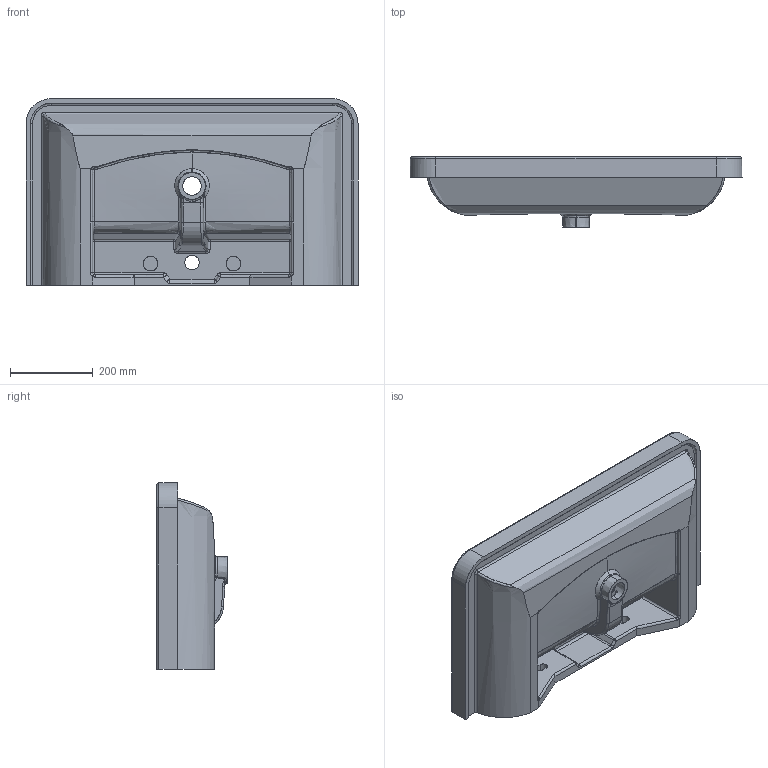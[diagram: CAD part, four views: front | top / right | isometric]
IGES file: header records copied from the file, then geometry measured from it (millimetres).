
Start section: SolidWorks IGES file using analytic representation for surfaces
Global section: file name: K:\lavabi tecla 3D IGS\b. ELECTRA (2)\ELECTRA45x80 EL02011.IGS; native system: SolidWorks 2013; preprocessor: SolidWorks 2013; author: UTENTE 1; date: 140521.164456; units: millimetre
Bounding box: 801.75 x 170 x 450.87 mm (x, y, z)
Surface area: 1351485.5 mm2 (no closed solid volume)
Topology: 0 solids, 0 shells, 255 faces, 3490 edges, 3484 vertices
Faces by surface type: bspline 152, revolution 103
